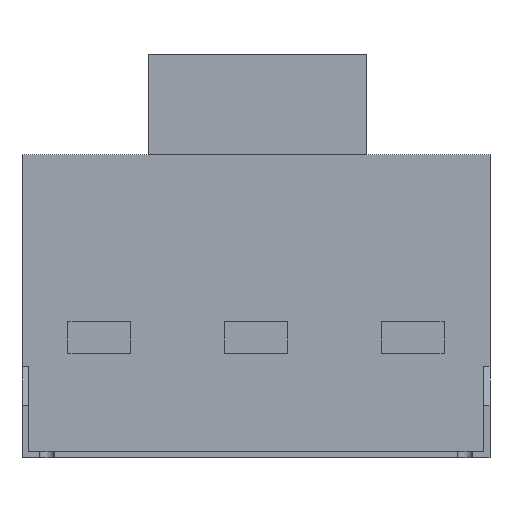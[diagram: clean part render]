
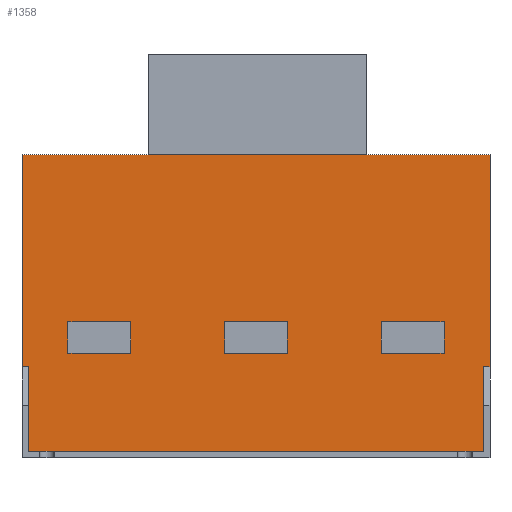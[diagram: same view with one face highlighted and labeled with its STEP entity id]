
A CAD part, front view. The second image highlights one B-rep face of the part: STEP entity #1358.
In plain terms, the highlighted planar face has unit normal (0, -1, 0).
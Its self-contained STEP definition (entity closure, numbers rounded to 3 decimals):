
#29=FACE_BOUND('',#237,.T.);
#30=FACE_BOUND('',#238,.T.);
#31=FACE_BOUND('',#239,.T.);
#80=PLANE('',#1473);
#151=FACE_OUTER_BOUND('',#236,.T.);
#236=EDGE_LOOP('',(#1162,#1163,#1164,#1165,#1166,#1167,#1168,#1169));
#237=EDGE_LOOP('',(#1170,#1171,#1172,#1173));
#238=EDGE_LOOP('',(#1174,#1175,#1176,#1177));
#239=EDGE_LOOP('',(#1178,#1179,#1180,#1181));
#268=LINE('',#1884,#430);
#272=LINE('',#1892,#434);
#275=LINE('',#1898,#437);
#278=LINE('',#1903,#440);
#280=LINE('',#1909,#442);
#284=LINE('',#1917,#446);
#287=LINE('',#1923,#449);
#290=LINE('',#1928,#452);
#292=LINE('',#1934,#454);
#296=LINE('',#1942,#458);
#299=LINE('',#1948,#461);
#302=LINE('',#1953,#464);
#373=LINE('',#2123,#535);
#377=LINE('',#2132,#539);
#386=LINE('',#2153,#548);
#389=LINE('',#2159,#551);
#390=LINE('',#2160,#552);
#391=LINE('',#2162,#553);
#392=LINE('',#2164,#554);
#393=LINE('',#2165,#555);
#430=VECTOR('',#1536,10.);
#434=VECTOR('',#1542,10.);
#437=VECTOR('',#1547,10.);
#440=VECTOR('',#1552,10.);
#442=VECTOR('',#1558,10.);
#446=VECTOR('',#1564,10.);
#449=VECTOR('',#1569,10.);
#452=VECTOR('',#1574,10.);
#454=VECTOR('',#1580,10.);
#458=VECTOR('',#1586,10.);
#461=VECTOR('',#1591,10.);
#464=VECTOR('',#1596,10.);
#535=VECTOR('',#1751,10.);
#539=VECTOR('',#1757,10.);
#548=VECTOR('',#1772,10.);
#551=VECTOR('',#1777,10.);
#552=VECTOR('',#1778,10.);
#553=VECTOR('',#1779,10.);
#554=VECTOR('',#1780,10.);
#555=VECTOR('',#1781,10.);
#622=VERTEX_POINT('',#1882);
#623=VERTEX_POINT('',#1883);
#626=VERTEX_POINT('',#1891);
#628=VERTEX_POINT('',#1897);
#630=VERTEX_POINT('',#1907);
#631=VERTEX_POINT('',#1908);
#634=VERTEX_POINT('',#1916);
#636=VERTEX_POINT('',#1922);
#638=VERTEX_POINT('',#1932);
#639=VERTEX_POINT('',#1933);
#642=VERTEX_POINT('',#1941);
#644=VERTEX_POINT('',#1947);
#701=VERTEX_POINT('',#2119);
#702=VERTEX_POINT('',#2121);
#704=VERTEX_POINT('',#2126);
#706=VERTEX_POINT('',#2130);
#715=VERTEX_POINT('',#2152);
#717=VERTEX_POINT('',#2158);
#718=VERTEX_POINT('',#2161);
#719=VERTEX_POINT('',#2163);
#752=EDGE_CURVE('',#622,#623,#268,.T.);
#756=EDGE_CURVE('',#623,#626,#272,.T.);
#759=EDGE_CURVE('',#626,#628,#275,.T.);
#762=EDGE_CURVE('',#628,#622,#278,.T.);
#764=EDGE_CURVE('',#630,#631,#280,.T.);
#768=EDGE_CURVE('',#631,#634,#284,.T.);
#771=EDGE_CURVE('',#634,#636,#287,.T.);
#774=EDGE_CURVE('',#636,#630,#290,.T.);
#776=EDGE_CURVE('',#638,#639,#292,.T.);
#780=EDGE_CURVE('',#639,#642,#296,.T.);
#783=EDGE_CURVE('',#642,#644,#299,.T.);
#786=EDGE_CURVE('',#644,#638,#302,.T.);
#869=EDGE_CURVE('',#702,#701,#373,.T.);
#873=EDGE_CURVE('',#706,#704,#377,.T.);
#882=EDGE_CURVE('',#715,#704,#386,.T.);
#885=EDGE_CURVE('',#702,#717,#389,.T.);
#886=EDGE_CURVE('',#717,#715,#390,.T.);
#887=EDGE_CURVE('',#718,#706,#391,.T.);
#888=EDGE_CURVE('',#719,#718,#392,.T.);
#889=EDGE_CURVE('',#701,#719,#393,.T.);
#1162=ORIENTED_EDGE('',*,*,#885,.T.);
#1163=ORIENTED_EDGE('',*,*,#886,.T.);
#1164=ORIENTED_EDGE('',*,*,#882,.T.);
#1165=ORIENTED_EDGE('',*,*,#873,.F.);
#1166=ORIENTED_EDGE('',*,*,#887,.F.);
#1167=ORIENTED_EDGE('',*,*,#888,.F.);
#1168=ORIENTED_EDGE('',*,*,#889,.F.);
#1169=ORIENTED_EDGE('',*,*,#869,.F.);
#1170=ORIENTED_EDGE('',*,*,#752,.T.);
#1171=ORIENTED_EDGE('',*,*,#756,.T.);
#1172=ORIENTED_EDGE('',*,*,#759,.T.);
#1173=ORIENTED_EDGE('',*,*,#762,.T.);
#1174=ORIENTED_EDGE('',*,*,#764,.T.);
#1175=ORIENTED_EDGE('',*,*,#768,.T.);
#1176=ORIENTED_EDGE('',*,*,#771,.T.);
#1177=ORIENTED_EDGE('',*,*,#774,.T.);
#1178=ORIENTED_EDGE('',*,*,#776,.T.);
#1179=ORIENTED_EDGE('',*,*,#780,.T.);
#1180=ORIENTED_EDGE('',*,*,#783,.T.);
#1181=ORIENTED_EDGE('',*,*,#786,.T.);
#1358=ADVANCED_FACE('',(#151,#29,#30,#31),#80,.T.);
#1473=AXIS2_PLACEMENT_3D('',#2157,#1775,#1776);
#1536=DIRECTION('',(0.,0.,1.));
#1542=DIRECTION('',(1.,0.,0.));
#1547=DIRECTION('',(0.,0.,-1.));
#1552=DIRECTION('',(-1.,0.,0.));
#1558=DIRECTION('',(0.,0.,1.));
#1564=DIRECTION('',(1.,0.,0.));
#1569=DIRECTION('',(0.,0.,-1.));
#1574=DIRECTION('',(-1.,0.,0.));
#1580=DIRECTION('',(0.,0.,1.));
#1586=DIRECTION('',(1.,0.,0.));
#1591=DIRECTION('',(0.,0.,-1.));
#1596=DIRECTION('',(-1.,0.,0.));
#1751=DIRECTION('',(-1.,0.,0.));
#1757=DIRECTION('',(-1.,0.,0.));
#1772=DIRECTION('',(0.,0.,1.));
#1775=DIRECTION('center_axis',(0.,-1.,0.));
#1776=DIRECTION('ref_axis',(1.,0.,0.));
#1777=DIRECTION('',(0.,0.,-1.));
#1778=DIRECTION('',(1.,0.,0.));
#1779=DIRECTION('',(0.,0.,-1.));
#1780=DIRECTION('',(1.,0.,0.));
#1781=DIRECTION('',(0.,0.,1.));
#1882=CARTESIAN_POINT('',(-90.,-163.,50.));
#1883=CARTESIAN_POINT('',(-90.,-163.,65.));
#1884=CARTESIAN_POINT('',(-90.,-163.,32.5));
#1891=CARTESIAN_POINT('',(-60.,-163.,65.));
#1892=CARTESIAN_POINT('',(-86.,-163.,65.));
#1897=CARTESIAN_POINT('',(-60.,-163.,50.));
#1898=CARTESIAN_POINT('',(-60.,-163.,25.));
#1903=CARTESIAN_POINT('',(-101.,-163.,50.));
#1907=CARTESIAN_POINT('',(-15.,-163.,50.));
#1908=CARTESIAN_POINT('',(-15.,-163.,65.));
#1909=CARTESIAN_POINT('',(-15.,-163.,32.5));
#1916=CARTESIAN_POINT('',(15.,-163.,65.));
#1917=CARTESIAN_POINT('',(-48.5,-163.,65.));
#1922=CARTESIAN_POINT('',(15.,-163.,50.));
#1923=CARTESIAN_POINT('',(15.,-163.,25.));
#1928=CARTESIAN_POINT('',(-63.5,-163.,50.));
#1932=CARTESIAN_POINT('',(60.,-163.,50.));
#1933=CARTESIAN_POINT('',(60.,-163.,65.));
#1934=CARTESIAN_POINT('',(60.,-163.,32.5));
#1941=CARTESIAN_POINT('',(90.,-163.,65.));
#1942=CARTESIAN_POINT('',(-11.,-163.,65.));
#1947=CARTESIAN_POINT('',(90.,-163.,50.));
#1948=CARTESIAN_POINT('',(90.,-163.,25.));
#1953=CARTESIAN_POINT('',(-26.,-163.,50.));
#2119=CARTESIAN_POINT('',(-112.,-163.,43.46));
#2121=CARTESIAN_POINT('',(-109.,-163.,43.46));
#2123=CARTESIAN_POINT('',(112.,-163.,43.46));
#2126=CARTESIAN_POINT('',(109.,-163.,43.46));
#2130=CARTESIAN_POINT('',(112.,-163.,43.46));
#2132=CARTESIAN_POINT('',(112.,-163.,43.46));
#2152=CARTESIAN_POINT('',(109.,-163.,3.));
#2153=CARTESIAN_POINT('',(109.,-163.,72.5));
#2157=CARTESIAN_POINT('Origin',(-112.,-163.,0.));
#2158=CARTESIAN_POINT('',(-109.,-163.,3.));
#2159=CARTESIAN_POINT('',(-109.,-163.,1.5));
#2160=CARTESIAN_POINT('',(-1.5,-163.,3.));
#2161=CARTESIAN_POINT('',(112.,-163.,145.));
#2162=CARTESIAN_POINT('',(112.,-163.,92.911));
#2163=CARTESIAN_POINT('',(-112.,-163.,145.));
#2164=CARTESIAN_POINT('',(56.,-163.,145.));
#2165=CARTESIAN_POINT('',(-112.,-163.,92.911));
